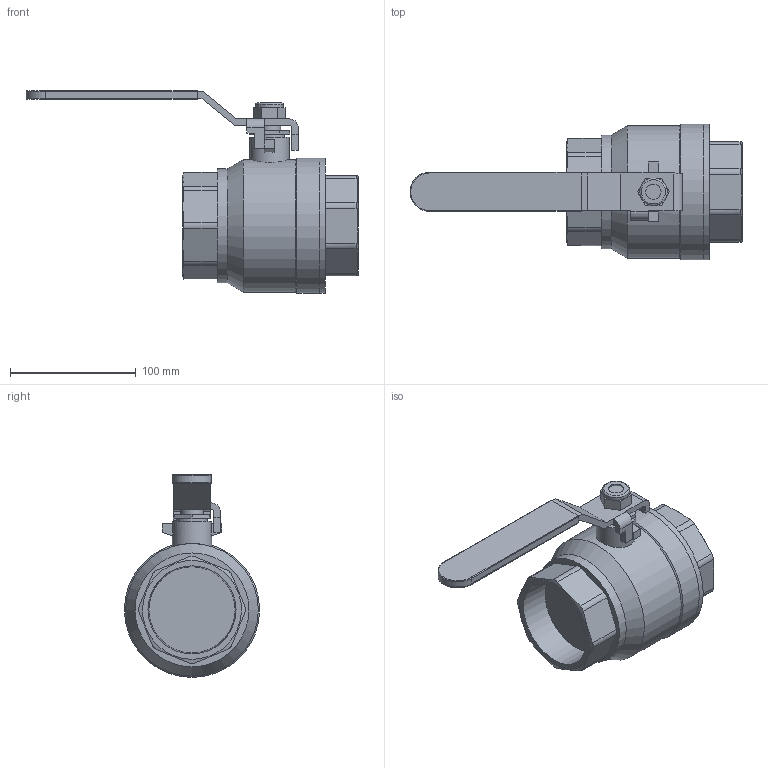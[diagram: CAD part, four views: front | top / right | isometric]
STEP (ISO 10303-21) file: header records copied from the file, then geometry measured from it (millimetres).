
FILE_DESCRIPTION((' '),'2;1');
FILE_NAME('N:\Technical Support\Private\Jomar Valve CAD\Ball Valves\Brass\2.5 JF-100T (100-109)FusionCopy.stp.step','2016-04-27T16:44:22',(' '),(' '),' ','ACIS',' ');
FILE_SCHEMA(('CONFIG_CONTROL_DESIGN'));
Length unit declared in the file: inch
Products named in the file (8): N:\Technical Support\Private\Jomar Valve CAD\Ball Valves\Brass\2.5 JF-100T (100-109)FusionCopy.stp.step; Body1; Body2; Body3; Body4; Body5; Body6; Body7
Assembly tree (7 placements, depth 2):
  N:\Technical Support\Private\Jomar Valve CAD\Ball Valves\Brass\2.5 JF-100T (100-109)FusionCopy.stp.step
    Body1
    Body2
    Body3
    Body4
    Body5
    Body6
    Body7
Bounding box: 264.46 x 107.7 x 161.64 mm (x, y, z)
Volume: 921789.1 mm3; surface area: 121708.8 mm2
Topology: 7 solids, 7 shells, 145 faces, 359 edges, 236 vertices
Faces by surface type: plane 90, cylinder 40, bspline 7, cone 5, torus 3
Full cylindrical faces by diameter (mm): 12.065 x1, 17.78 x1, 18.288 x1, 21.844 x1, 24.003 x1, 31.369 x1, 90.678 x1, 105.664 x1, 107.696 x2
Entity records: 5326 total; most frequent: CARTESIAN_POINT 900, DIRECTION 690, ORIENTED_EDGE 666, EDGE_CURVE 333, AXIS2_PLACEMENT_3D 237, VERTEX_POINT 227, VECTOR 216, LINE 216
